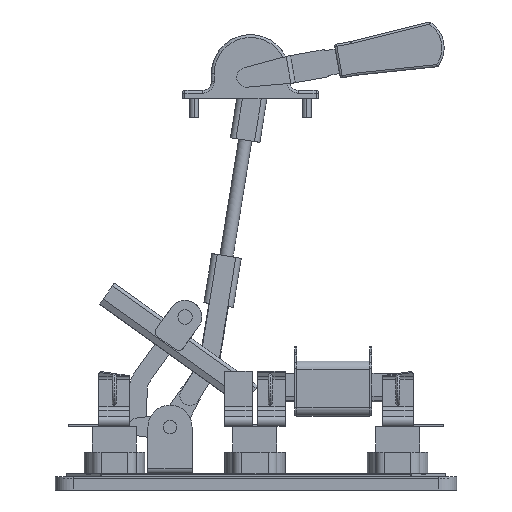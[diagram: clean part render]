
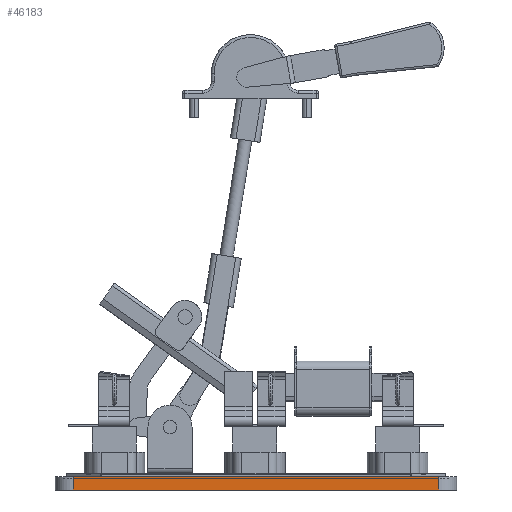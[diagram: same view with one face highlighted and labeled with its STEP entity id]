
A CAD part, left-side view. The second image highlights one B-rep face of the part: STEP entity #46183.
In plain terms, the highlighted planar face has unit normal (-1, 0, 0).
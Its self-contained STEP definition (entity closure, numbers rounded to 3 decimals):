
#1586 = EDGE_CURVE ( 'NONE', #47008, #25235, #49803, .T. ) ;
#5797 = ORIENTED_EDGE ( 'NONE', *, *, #40410, .T. ) ;
#5961 = LINE ( 'NONE', #34241, #59439 ) ;
#9005 = LINE ( 'NONE', #27809, #39339 ) ;
#16269 = EDGE_LOOP ( 'NONE', ( #53532, #17602, #19892, #5797 ) ) ;
#17602 = ORIENTED_EDGE ( 'NONE', *, *, #28482, .T. ) ;
#18362 = FACE_OUTER_BOUND ( 'NONE', #16269, .T. ) ;
#19892 = ORIENTED_EDGE ( 'NONE', *, *, #57447, .T. ) ;
#23633 = CARTESIAN_POINT ( 'NONE',  ( -132., 87.8, -3. ) ) ;
#24237 = PLANE ( 'NONE',  #46744 ) ;
#25235 = VERTEX_POINT ( 'NONE', #55861 ) ;
#25595 = DIRECTION ( 'NONE',  ( -1., 0., 0. ) ) ;
#27809 = CARTESIAN_POINT ( 'NONE',  ( -132., 104., -15. ) ) ;
#28482 = EDGE_CURVE ( 'NONE', #47008, #56015, #5961, .T. ) ;
#29246 = LINE ( 'NONE', #43275, #38884 ) ;
#34241 = CARTESIAN_POINT ( 'NONE',  ( -132., 87.8, -15. ) ) ;
#34656 = VECTOR ( 'NONE', #62206, 1000. ) ;
#35864 = VERTEX_POINT ( 'NONE', #42682 ) ;
#38884 = VECTOR ( 'NONE', #48152, 1000. ) ;
#39339 = VECTOR ( 'NONE', #58375, 1000. ) ;
#39845 = DIRECTION ( 'NONE',  ( 0., 0., -1. ) ) ;
#40410 = EDGE_CURVE ( 'NONE', #35864, #25235, #29246, .T. ) ;
#40856 = CARTESIAN_POINT ( 'NONE',  ( -132., 104., -3. ) ) ;
#41276 = CARTESIAN_POINT ( 'NONE',  ( -132., 104., -15. ) ) ;
#42682 = CARTESIAN_POINT ( 'NONE',  ( -132., -243.8, -15. ) ) ;
#43275 = CARTESIAN_POINT ( 'NONE',  ( -132., -243.8, -15. ) ) ;
#46183 = ADVANCED_FACE ( 'NONE', ( #18362 ), #24237, .T. ) ;
#46744 = AXIS2_PLACEMENT_3D ( 'NONE', #41276, #25595, #60199 ) ;
#47008 = VERTEX_POINT ( 'NONE', #23633 ) ;
#48152 = DIRECTION ( 'NONE',  ( 0., 0., 1. ) ) ;
#49803 = LINE ( 'NONE', #40856, #34656 ) ;
#53532 = ORIENTED_EDGE ( 'NONE', *, *, #1586, .F. ) ;
#54136 = CARTESIAN_POINT ( 'NONE',  ( -132., 87.8, -15. ) ) ;
#55861 = CARTESIAN_POINT ( 'NONE',  ( -132., -243.8, -3. ) ) ;
#56015 = VERTEX_POINT ( 'NONE', #54136 ) ;
#57447 = EDGE_CURVE ( 'NONE', #56015, #35864, #9005, .T. ) ;
#58375 = DIRECTION ( 'NONE',  ( 0., -1., 0. ) ) ;
#59439 = VECTOR ( 'NONE', #39845, 1000. ) ;
#60199 = DIRECTION ( 'NONE',  ( 0., -1., 0. ) ) ;
#62206 = DIRECTION ( 'NONE',  ( 0., -1., 0. ) ) ;
